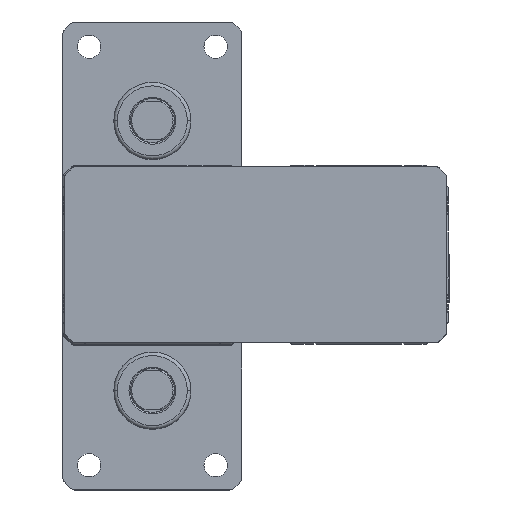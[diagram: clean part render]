
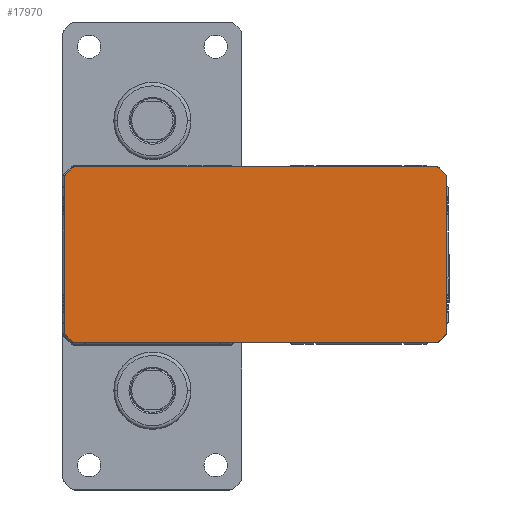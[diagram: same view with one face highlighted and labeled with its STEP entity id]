
A CAD part, top view. The second image highlights one B-rep face of the part: STEP entity #17970.
In plain terms, the highlighted planar face has unit normal (0, 0, 1).
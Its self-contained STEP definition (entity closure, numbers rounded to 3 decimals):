
#4 = AXIS2_PLACEMENT_3D ( 'NONE', #37645, #13456, #41696 ) ;
#101 = VECTOR ( 'NONE', #30874, 1000. ) ;
#439 = DIRECTION ( 'NONE',  ( -0.707, 0.707, 0. ) ) ;
#466 = DIRECTION ( 'NONE',  ( 0., 0., 1. ) ) ;
#767 = DIRECTION ( 'NONE',  ( 0., 0., 1. ) ) ;
#789 = AXIS2_PLACEMENT_3D ( 'NONE', #19223, #47493, #23314 ) ;
#867 = ORIENTED_EDGE ( 'NONE', *, *, #7746, .T. ) ;
#1357 = ORIENTED_EDGE ( 'NONE', *, *, #35593, .T. ) ;
#2382 = CARTESIAN_POINT ( 'NONE',  ( -28., -32., 244. ) ) ;
#2925 = DIRECTION ( 'NONE',  ( -0.707, -0.707, 0. ) ) ;
#3035 = VECTOR ( 'NONE', #34702, 1000. ) ;
#3582 = EDGE_CURVE ( 'NONE', #46043, #3920, #25635, .T. ) ;
#3920 = VERTEX_POINT ( 'NONE', #9825 ) ;
#4220 = ORIENTED_EDGE ( 'NONE', *, *, #46749, .T. ) ;
#6270 = CARTESIAN_POINT ( 'NONE',  ( 103., -32., 244. ) ) ;
#6680 = CARTESIAN_POINT ( 'NONE',  ( 103., 32., 244. ) ) ;
#6754 = AXIS2_PLACEMENT_3D ( 'NONE', #43904, #19706, #47985 ) ;
#7219 = CARTESIAN_POINT ( 'NONE',  ( -32., 28., 244. ) ) ;
#7335 = EDGE_CURVE ( 'NONE', #12812, #34734, #20345, .T. ) ;
#7542 = ORIENTED_EDGE ( 'NONE', *, *, #7822, .T. ) ;
#7746 = EDGE_CURVE ( 'NONE', #17791, #33801, #46882, .T. ) ;
#7822 = EDGE_CURVE ( 'NONE', #9157, #45837, #28537, .T. ) ;
#8286 = EDGE_CURVE ( 'NONE', #23256, #12456, #39247, .T. ) ;
#8640 = ORIENTED_EDGE ( 'NONE', *, *, #32391, .T. ) ;
#8969 = CARTESIAN_POINT ( 'NONE',  ( -28., 30.5, 244. ) ) ;
#9157 = VERTEX_POINT ( 'NONE', #14247 ) ;
#9825 = CARTESIAN_POINT ( 'NONE',  ( 104.061, -31.561, 244. ) ) ;
#10002 = CARTESIAN_POINT ( 'NONE',  ( 103., 30.5, 244. ) ) ;
#10443 = ORIENTED_EDGE ( 'NONE', *, *, #33861, .T. ) ;
#10510 = CARTESIAN_POINT ( 'NONE',  ( 104.061, -31.561, 244. ) ) ;
#10924 = CARTESIAN_POINT ( 'NONE',  ( 107., 28., 244. ) ) ;
#11057 = CARTESIAN_POINT ( 'NONE',  ( 107., -28., 244. ) ) ;
#11073 = DIRECTION ( 'NONE',  ( 0., -1., 0. ) ) ;
#12452 = CARTESIAN_POINT ( 'NONE',  ( -28., 32., 244. ) ) ;
#12456 = VERTEX_POINT ( 'NONE', #29128 ) ;
#12491 = CIRCLE ( 'NONE', #48709, 1.5 ) ;
#12812 = VERTEX_POINT ( 'NONE', #15065 ) ;
#13003 = DIRECTION ( 'NONE',  ( 1., 0., 0. ) ) ;
#13339 = EDGE_CURVE ( 'NONE', #41286, #24555, #39736, .T. ) ;
#13456 = DIRECTION ( 'NONE',  ( 0., 0., 1. ) ) ;
#14058 = DIRECTION ( 'NONE',  ( 1., 0., 0. ) ) ;
#14247 = CARTESIAN_POINT ( 'NONE',  ( -32., 28., 244. ) ) ;
#14482 = DIRECTION ( 'NONE',  ( 0., 1., 0. ) ) ;
#14907 = AXIS2_PLACEMENT_3D ( 'NONE', #48223, #24052, #52269 ) ;
#15065 = CARTESIAN_POINT ( 'NONE',  ( -31.561, -29.061, 244. ) ) ;
#15509 = CARTESIAN_POINT ( 'NONE',  ( 103., 32., 244. ) ) ;
#15521 = FACE_OUTER_BOUND ( 'NONE', #34776, .T. ) ;
#16050 = CARTESIAN_POINT ( 'NONE',  ( -31.561, -29.061, 244. ) ) ;
#16563 = VERTEX_POINT ( 'NONE', #29351 ) ;
#16864 = ORIENTED_EDGE ( 'NONE', *, *, #7335, .T. ) ;
#16881 = ORIENTED_EDGE ( 'NONE', *, *, #3582, .T. ) ;
#17401 = CARTESIAN_POINT ( 'NONE',  ( -28., -32., 244. ) ) ;
#17791 = VERTEX_POINT ( 'NONE', #15509 ) ;
#17919 = AXIS2_PLACEMENT_3D ( 'NONE', #10002, #38257, #14058 ) ;
#17970 = ADVANCED_FACE ( 'NONE', ( #15521 ), #44785, .T. ) ;
#18016 = EDGE_CURVE ( 'NONE', #33801, #23256, #22453, .T. ) ;
#18259 = VECTOR ( 'NONE', #14482, 1000. ) ;
#18313 = LINE ( 'NONE', #17401, #39797 ) ;
#18719 = ORIENTED_EDGE ( 'NONE', *, *, #8286, .T. ) ;
#19223 = CARTESIAN_POINT ( 'NONE',  ( -30.5, -28., 244. ) ) ;
#19706 = DIRECTION ( 'NONE',  ( 0., 0., 1. ) ) ;
#20345 = LINE ( 'NONE', #16050, #29859 ) ;
#20589 = CARTESIAN_POINT ( 'NONE',  ( -30.5, -28., 244. ) ) ;
#20744 = CARTESIAN_POINT ( 'NONE',  ( 106.561, 29.061, 244. ) ) ;
#22453 = CIRCLE ( 'NONE', #45454, 1.5 ) ;
#22933 = EDGE_CURVE ( 'NONE', #24555, #16563, #12491, .T. ) ;
#23256 = VERTEX_POINT ( 'NONE', #26424 ) ;
#23314 = DIRECTION ( 'NONE',  ( 1., 0., 0. ) ) ;
#23778 = CARTESIAN_POINT ( 'NONE',  ( -28., -30.5, 244. ) ) ;
#24052 = DIRECTION ( 'NONE',  ( 0., 0., 1. ) ) ;
#24555 = VERTEX_POINT ( 'NONE', #10924 ) ;
#24965 = CARTESIAN_POINT ( 'NONE',  ( 105.5, 28., 244. ) ) ;
#25263 = ORIENTED_EDGE ( 'NONE', *, *, #39562, .T. ) ;
#25346 = VERTEX_POINT ( 'NONE', #44364 ) ;
#25357 = CIRCLE ( 'NONE', #789, 1.5 ) ;
#25537 = CIRCLE ( 'NONE', #25569, 1.5 ) ;
#25569 = AXIS2_PLACEMENT_3D ( 'NONE', #23778, #52002, #27835 ) ;
#25635 = CIRCLE ( 'NONE', #6754, 1.5 ) ;
#26124 = ORIENTED_EDGE ( 'NONE', *, *, #36216, .T. ) ;
#26424 = CARTESIAN_POINT ( 'NONE',  ( -29.061, 31.561, 244. ) ) ;
#27835 = DIRECTION ( 'NONE',  ( 1., 0., 0. ) ) ;
#28537 = LINE ( 'NONE', #7219, #48734 ) ;
#28739 = DIRECTION ( 'NONE',  ( 1., 0., 0. ) ) ;
#29027 = DIRECTION ( 'NONE',  ( 1., 0., 0. ) ) ;
#29128 = CARTESIAN_POINT ( 'NONE',  ( -31.561, 29.061, 244. ) ) ;
#29351 = CARTESIAN_POINT ( 'NONE',  ( 106.561, 29.061, 244. ) ) ;
#29859 = VECTOR ( 'NONE', #40234, 1000. ) ;
#30538 = CIRCLE ( 'NONE', #17919, 1.5 ) ;
#30874 = DIRECTION ( 'NONE',  ( -1., 0., 0. ) ) ;
#31616 = EDGE_CURVE ( 'NONE', #25346, #17791, #30538, .T. ) ;
#32266 = ORIENTED_EDGE ( 'NONE', *, *, #18016, .T. ) ;
#32391 = EDGE_CURVE ( 'NONE', #12456, #9157, #35482, .T. ) ;
#32514 = VERTEX_POINT ( 'NONE', #48906 ) ;
#33108 = CARTESIAN_POINT ( 'NONE',  ( -32., -28., 244. ) ) ;
#33687 = ORIENTED_EDGE ( 'NONE', *, *, #13339, .T. ) ;
#33801 = VERTEX_POINT ( 'NONE', #12452 ) ;
#33861 = EDGE_CURVE ( 'NONE', #16563, #25346, #38503, .T. ) ;
#34133 = VERTEX_POINT ( 'NONE', #2382 ) ;
#34702 = DIRECTION ( 'NONE',  ( 0.707, 0.707, 0. ) ) ;
#34734 = VERTEX_POINT ( 'NONE', #43435 ) ;
#34776 = EDGE_LOOP ( 'NONE', ( #4220, #16864, #25263, #1357, #16881, #44612, #26124, #33687, #41971, #10443, #52189, #867, #32266, #18719, #8640, #7542 ) ) ;
#35250 = LINE ( 'NONE', #10510, #3035 ) ;
#35482 = CIRCLE ( 'NONE', #14907, 1.5 ) ;
#35593 = EDGE_CURVE ( 'NONE', #34133, #46043, #18313, .T. ) ;
#36216 = EDGE_CURVE ( 'NONE', #32514, #41286, #42885, .T. ) ;
#37205 = DIRECTION ( 'NONE',  ( 0., 0., 1. ) ) ;
#37645 = CARTESIAN_POINT ( 'NONE',  ( 105.5, -28., 244. ) ) ;
#38257 = DIRECTION ( 'NONE',  ( 0., 0., 1. ) ) ;
#38503 = LINE ( 'NONE', #20744, #47954 ) ;
#39247 = LINE ( 'NONE', #51105, #43611 ) ;
#39562 = EDGE_CURVE ( 'NONE', #34734, #34133, #25537, .T. ) ;
#39736 = LINE ( 'NONE', #42719, #18259 ) ;
#39797 = VECTOR ( 'NONE', #45659, 1000. ) ;
#40234 = DIRECTION ( 'NONE',  ( 0.707, -0.707, 0. ) ) ;
#41286 = VERTEX_POINT ( 'NONE', #11057 ) ;
#41696 = DIRECTION ( 'NONE',  ( 1., 0., 0. ) ) ;
#41971 = ORIENTED_EDGE ( 'NONE', *, *, #22933, .T. ) ;
#42162 = EDGE_CURVE ( 'NONE', #3920, #32514, #35250, .T. ) ;
#42719 = CARTESIAN_POINT ( 'NONE',  ( 107., -28., 244. ) ) ;
#42885 = CIRCLE ( 'NONE', #4, 1.5 ) ;
#43435 = CARTESIAN_POINT ( 'NONE',  ( -29.061, -31.561, 244. ) ) ;
#43611 = VECTOR ( 'NONE', #2925, 1000. ) ;
#43904 = CARTESIAN_POINT ( 'NONE',  ( 103., -30.5, 244. ) ) ;
#44364 = CARTESIAN_POINT ( 'NONE',  ( 104.061, 31.561, 244. ) ) ;
#44612 = ORIENTED_EDGE ( 'NONE', *, *, #42162, .T. ) ;
#44785 = PLANE ( 'NONE',  #48164 ) ;
#45454 = AXIS2_PLACEMENT_3D ( 'NONE', #8969, #37205, #13003 ) ;
#45659 = DIRECTION ( 'NONE',  ( 1., 0., 0. ) ) ;
#45837 = VERTEX_POINT ( 'NONE', #33108 ) ;
#46043 = VERTEX_POINT ( 'NONE', #6270 ) ;
#46749 = EDGE_CURVE ( 'NONE', #45837, #12812, #25357, .T. ) ;
#46882 = LINE ( 'NONE', #6680, #101 ) ;
#47493 = DIRECTION ( 'NONE',  ( 0., 0., 1. ) ) ;
#47954 = VECTOR ( 'NONE', #439, 1000. ) ;
#47985 = DIRECTION ( 'NONE',  ( 1., 0., 0. ) ) ;
#48164 = AXIS2_PLACEMENT_3D ( 'NONE', #20589, #466, #28739 ) ;
#48223 = CARTESIAN_POINT ( 'NONE',  ( -30.5, 28., 244. ) ) ;
#48709 = AXIS2_PLACEMENT_3D ( 'NONE', #24965, #767, #29027 ) ;
#48734 = VECTOR ( 'NONE', #11073, 1000. ) ;
#48906 = CARTESIAN_POINT ( 'NONE',  ( 106.561, -29.061, 244. ) ) ;
#51105 = CARTESIAN_POINT ( 'NONE',  ( -29.061, 31.561, 244. ) ) ;
#52002 = DIRECTION ( 'NONE',  ( 0., 0., 1. ) ) ;
#52189 = ORIENTED_EDGE ( 'NONE', *, *, #31616, .T. ) ;
#52269 = DIRECTION ( 'NONE',  ( 1., 0., 0. ) ) ;
